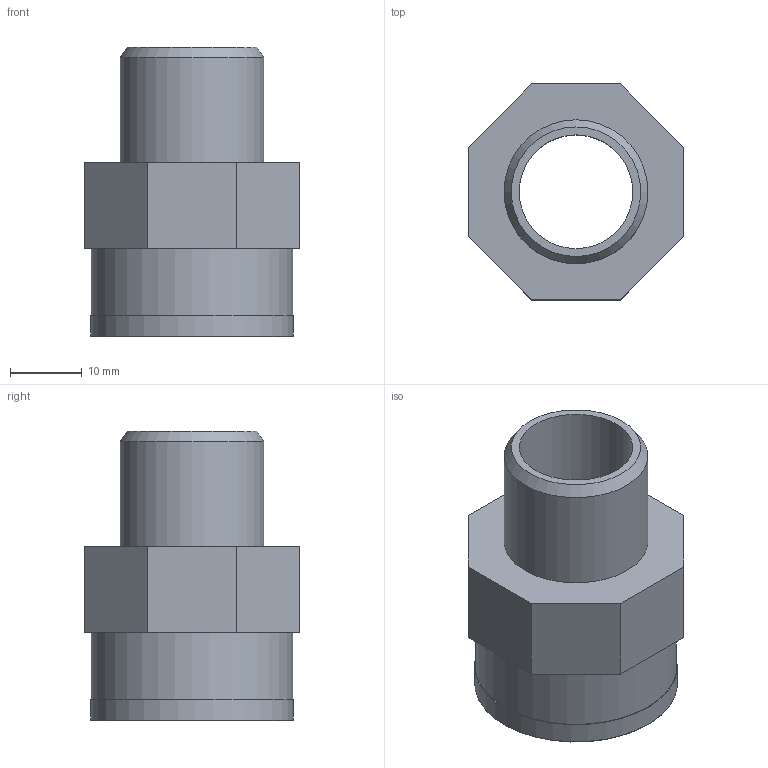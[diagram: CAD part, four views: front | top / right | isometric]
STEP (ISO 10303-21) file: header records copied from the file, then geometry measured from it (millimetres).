
FILE_DESCRIPTION(/* description */ (''),/* implementation_level */ '2;1');
FILE_NAME(/* name */ 'C:\Users\POLYPIPE\Desktop\DATASET INVENTOR\LIBRERIA EFFAST\RACCORDI 3DxWEB\RGR\3D_RGRAFR\3D_RGRAFR020B.stp',/* time_stamp */ '2018-01-19T17:29:40+01:00',/* author */ ('POLYPIPE'),/* organization */ (''),/* preprocessor_version */ 'ST-DEVELOPER v16.1',/* originating_system */ 'Autodesk Inventor 2016',/* authorisation */ '');
FILE_SCHEMA (('CONFIG_CONTROL_DESIGN'));
Length unit declared in the file: centimetre
Products named in the file (1): 3D_RGRAFR020B
Bounding box: 30 x 30 x 40.25 mm (x, y, z)
Volume: 11627.9 mm3; surface area: 7232.4 mm2
Topology: 1 solids, 1 shells, 29 faces, 63 edges, 41 vertices
Faces by surface type: plane 16, cylinder 6, bspline 5, torus 1, cone 1
Full cylindrical faces by diameter (mm): 15.8 x1, 18.631 x1, 20 x1, 23 x1, 28 x1, 28.2 x1
Entity records: 4158 total; most frequent: CARTESIAN_POINT 3508, DIRECTION 109, ORIENTED_EDGE 108, EDGE_CURVE 54, EDGE_LOOP 44, AXIS2_PLACEMENT_3D 41, VERTEX_POINT 40, STYLED_ITEM 30
